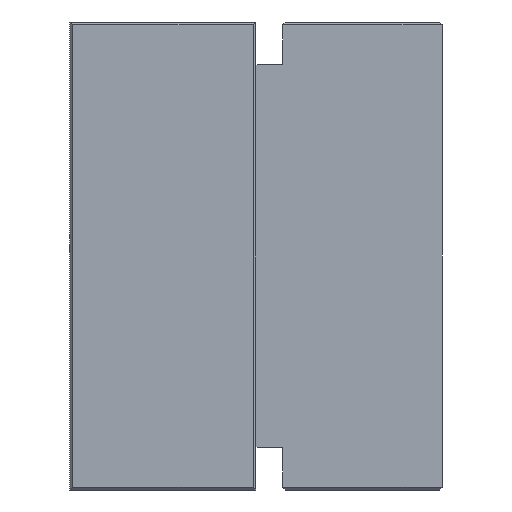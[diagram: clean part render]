
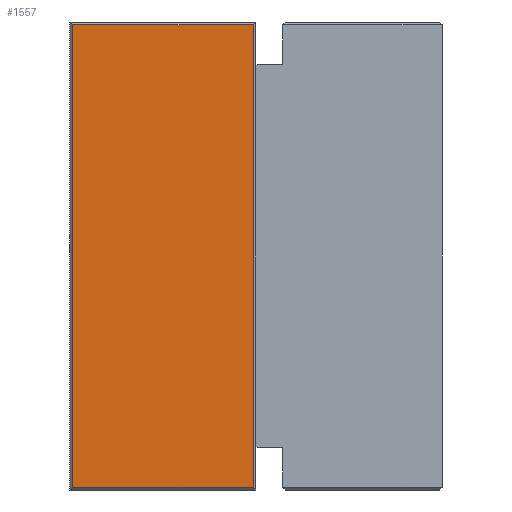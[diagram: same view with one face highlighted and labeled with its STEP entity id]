
A CAD part, left-side view. The second image highlights one B-rep face of the part: STEP entity #1557.
In plain terms, the highlighted planar face has unit normal (-1, 0, 0).
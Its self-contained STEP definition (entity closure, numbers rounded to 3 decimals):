
#1137 = DIRECTION ( 'NONE',  ( 0., 1., 0. ) ) ;
#1138 = DIRECTION ( 'NONE',  ( 1., 0., 0. ) ) ;
#1139 = CARTESIAN_POINT ( 'NONE',  ( -35., 0., 44. ) ) ;
#1140 = AXIS2_PLACEMENT_3D ( 'NONE', #1139, #1138, #1137 ) ;
#1141 = PLANE ( 'NONE',  #1140 ) ;
#1142 = FACE_OUTER_BOUND ( 'NONE', #1448, .T. ) ;
#1173 = CARTESIAN_POINT ( 'NONE',  ( -35., -0.5, 43.5 ) ) ;
#1174 = CARTESIAN_POINT ( 'NONE',  ( -35., -0.5, -43.5 ) ) ;
#1175 = DIRECTION ( 'NONE',  ( 0., 0., -1. ) ) ;
#1176 = VECTOR ( 'NONE', #1175, 1000. ) ;
#1177 = CARTESIAN_POINT ( 'NONE',  ( -35., -0.5, 44. ) ) ;
#1178 = LINE ( 'NONE', #1177, #1176 ) ;
#1222 = DIRECTION ( 'NONE',  ( 0., 1., 0. ) ) ;
#1223 = VECTOR ( 'NONE', #1222, 1000. ) ;
#1224 = CARTESIAN_POINT ( 'NONE',  ( -35., 0., 43.5 ) ) ;
#1225 = LINE ( 'NONE', #1224, #1223 ) ;
#1226 = CARTESIAN_POINT ( 'NONE',  ( -35., -34.5, 43.5 ) ) ;
#1227 = DIRECTION ( 'NONE',  ( 0., 0., 1. ) ) ;
#1228 = VECTOR ( 'NONE', #1227, 1000. ) ;
#1229 = CARTESIAN_POINT ( 'NONE',  ( -35., -34.5, 44. ) ) ;
#1230 = LINE ( 'NONE', #1229, #1228 ) ;
#1231 = CARTESIAN_POINT ( 'NONE',  ( -35., -34.5, -43.5 ) ) ;
#1232 = DIRECTION ( 'NONE',  ( 0., -1., 0. ) ) ;
#1233 = VECTOR ( 'NONE', #1232, 1000. ) ;
#1234 = CARTESIAN_POINT ( 'NONE',  ( -35., -35., -43.5 ) ) ;
#1235 = LINE ( 'NONE', #1234, #1233 ) ;
#1448 = EDGE_LOOP ( 'NONE', ( #1449, #1453, #1456, #1459 ) ) ;
#1449 = ORIENTED_EDGE ( 'NONE', *, *, #1450, .T. ) ;
#1450 = EDGE_CURVE ( 'NONE', #1451, #1452, #1178, .T. ) ;
#1451 = VERTEX_POINT ( 'NONE', #1173 ) ;
#1452 = VERTEX_POINT ( 'NONE', #1174 ) ;
#1453 = ORIENTED_EDGE ( 'NONE', *, *, #1454, .T. ) ;
#1454 = EDGE_CURVE ( 'NONE', #1452, #1455, #1235, .T. ) ;
#1455 = VERTEX_POINT ( 'NONE', #1231 ) ;
#1456 = ORIENTED_EDGE ( 'NONE', *, *, #1457, .T. ) ;
#1457 = EDGE_CURVE ( 'NONE', #1455, #1458, #1230, .T. ) ;
#1458 = VERTEX_POINT ( 'NONE', #1226 ) ;
#1459 = ORIENTED_EDGE ( 'NONE', *, *, #1460, .T. ) ;
#1460 = EDGE_CURVE ( 'NONE', #1458, #1451, #1225, .T. ) ;
#1557 = ADVANCED_FACE ( 'NONE', ( #1142 ), #1141, .F. ) ;
